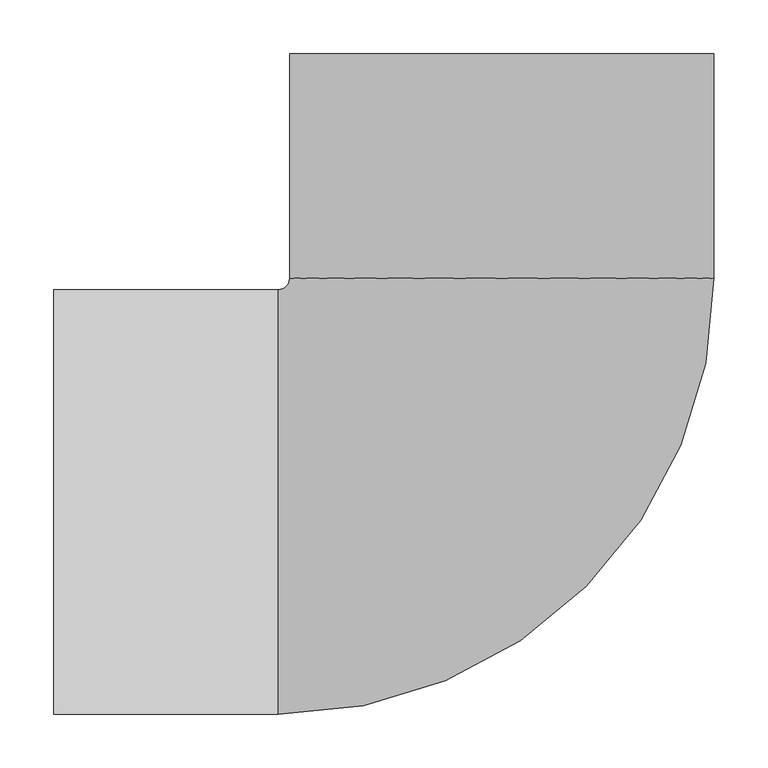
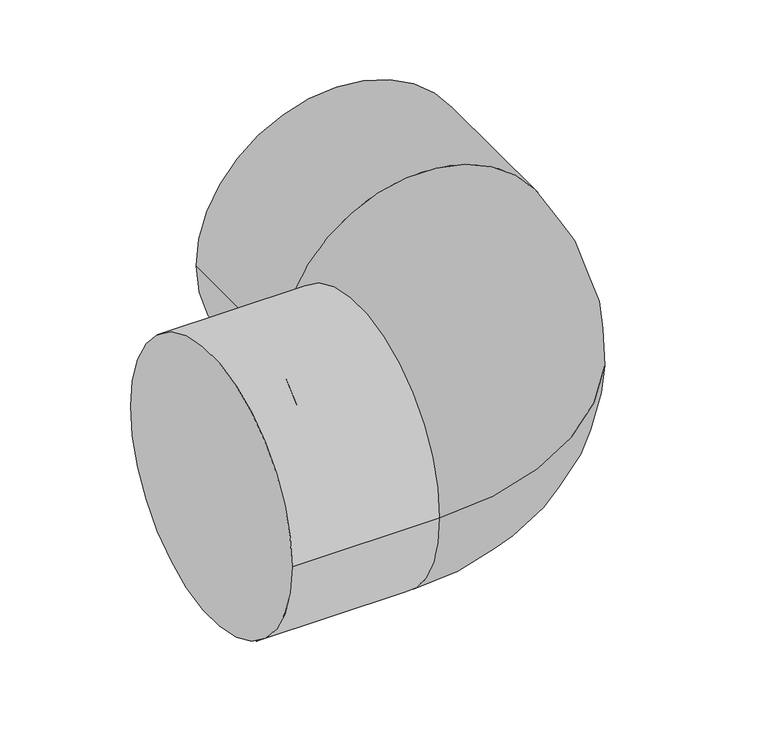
"""IFC4 building model written with IfcOpenShell, lengths in millimetres: pipe fitting geometry, 01051001 : Joelho a 90º."""

from ifc_helpers import new_model, si_unit, point, frame, origin, place, context, project, spatial, circle_curve, ellipse_curve, trimmed, source, transform, mapped, element, save
from ifc_brep_helpers import plane_surface, cylinder_surface, revolved_surface, advanced_brep


def pipe_fitting_e7dc84cb(model_context):
    return source(origin(), model_context, "Body", "AdvancedBrep", [
        advanced_brep(
        [(-207.0, -196.65, 0.0), (196.65, 207.0, 0.0), (-196.65, 207.0, 0.0), (-207.0, 196.65, 0.0), (-196.65, 415.0, 0.0), (196.65, 415.0, 0.0), (-415.0, 196.65, 0.0), (-415.0, -196.65, 0.0)],
        [
            (0, 1, circle_curve(frame((-207.0, 207.0, 0.0), z_axis=(0.0, 0.0, 1.0), x_axis=(1.0, 0.0, 0.0)), 403.65)),
            (1, 2, circle_curve(frame((0.0, 207.0, 0.0), z_axis=(0.0, -1.0, 0.0), x_axis=(1.0, 0.0, 0.0)), 196.65)),
            (2, 3, circle_curve(frame((-207.0, 207.0, 0.0), z_axis=(0.0, 0.0, -1.0), x_axis=(1.0, 0.0, 0.0)), 10.35)),
            (3, 0, circle_curve(frame((-207.0, 0.0, 0.0), z_axis=(1.0, 0.0, 0.0), x_axis=(0.0, -1.0, 0.0)), 196.65)),
            (2, 1, circle_curve(frame((0.0, 207.0, 0.0), z_axis=(0.0, -1.0, 0.0), x_axis=(1.0, 0.0, 0.0)), 196.65)),
            (0, 3, circle_curve(frame((-207.0, 0.0, 0.0), z_axis=(1.0, 0.0, 0.0), x_axis=(0.0, -1.0, 0.0)), 196.65)),
            (4, 5, circle_curve(frame((0.0, 415.0, 0.0), z_axis=(0.0, 1.0, 0.0), x_axis=(1.0, 0.0, 0.0)), 196.65)),
            (5, 4, circle_curve(frame((0.0, 415.0, 0.0), z_axis=(0.0, 1.0, 0.0), x_axis=(1.0, 0.0, 0.0)), 196.65)),
            (4, 2),
            (1, 5),
            (6, 7, circle_curve(frame((-415.0, 0.0, 0.0), z_axis=(-1.0, 0.0, 0.0), x_axis=(0.0, -1.0, 0.0)), 196.65)),
            (7, 6, circle_curve(frame((-415.0, 0.0, 0.0), z_axis=(-1.0, 0.0, 0.0), x_axis=(0.0, -1.0, 0.0)), 196.65)),
            (3, 6),
            (7, 0),
        ],
        [
            revolved_surface(trimmed(ellipse_curve(frame((0.0, 207.0, 0.0), z_axis=(0.0, 1.0, 0.0), x_axis=(1.0, 0.0, 0.0)), 196.65, 196.65), [point((-196.65, 207.0, 0.0))], [point((196.65, 207.0, 0.0))], True, "CARTESIAN"), (-207.0, 207.0, 0.0), (0.0, 0.0, -1.0)),
            revolved_surface(trimmed(ellipse_curve(frame((0.0, 207.0, 0.0), z_axis=(0.0, 1.0, 0.0), x_axis=(1.0, 0.0, 0.0)), 196.65, 196.65), [point((196.65, 207.0, 0.0))], [point((-196.65, 207.0, 0.0))], True, "CARTESIAN"), (-207.0, 207.0, 0.0), (0.0, 0.0, -1.0)),
            plane_surface(frame((0.0, 415.0, 0.0), z_axis=(0.0, 1.0, 0.0), x_axis=(0.0, 0.0, 1.0))),
            cylinder_surface(frame((0.0, 415.0, 0.0), z_axis=(0.0, 1.0, 0.0), x_axis=(1.0, 0.0, 0.0)), 196.65),
            plane_surface(frame((-415.0, 0.0, 0.0), z_axis=(-1.0, 0.0, 0.0), x_axis=(0.0, 0.0, 1.0))),
            cylinder_surface(frame((-207.0, 0.0, 0.0), z_axis=(1.0, 0.0, 0.0), x_axis=(0.0, -1.0, 0.0)), 196.65),
        ],
        [
            (0, [[1, 2, 3, 4]]),
            (1, [[-3, 5, -1, 6]]),
            (2, [[7, 8]]),
            (3, [[-7, 9, -2, 10]]),
            (3, [[-8, -10, -5, -9]]),
            (4, [[11, 12]]),
            (5, [[-4, 13, -12, 14]]),
            (5, [[-6, -14, -11, -13]]),
        ],
    ),
    ])


if __name__ == "__main__":
    model = new_model("IFC4")
    model_context = context("Model", 3, world=origin())
    ifc_project = project(units=[si_unit("LENGTHUNIT", "METRE", prefix="MILLI")], contexts=[model_context])
    site = spatial("IfcSite", under=ifc_project)
    building = spatial("IfcBuilding", under=site)
    placement = place(None, origin())
    pipe_fitting_shape = pipe_fitting_e7dc84cb(model_context)
    element("IfcPipeFitting", 1, ObjectType="01051001 : Joelho a 90º", at=placement, inside=building, context=model_context, shape_type="MappedRepresentation", body=[
        mapped(pipe_fitting_shape, transform((0.0, 0.0, 0.0), x_axis=(1.0, 0.0, 0.0), y_axis=(0.0, 1.0, 0.0), z_axis=(0.0, 0.0, 1.0))),
    ])
    save(model, "model.ifc")
